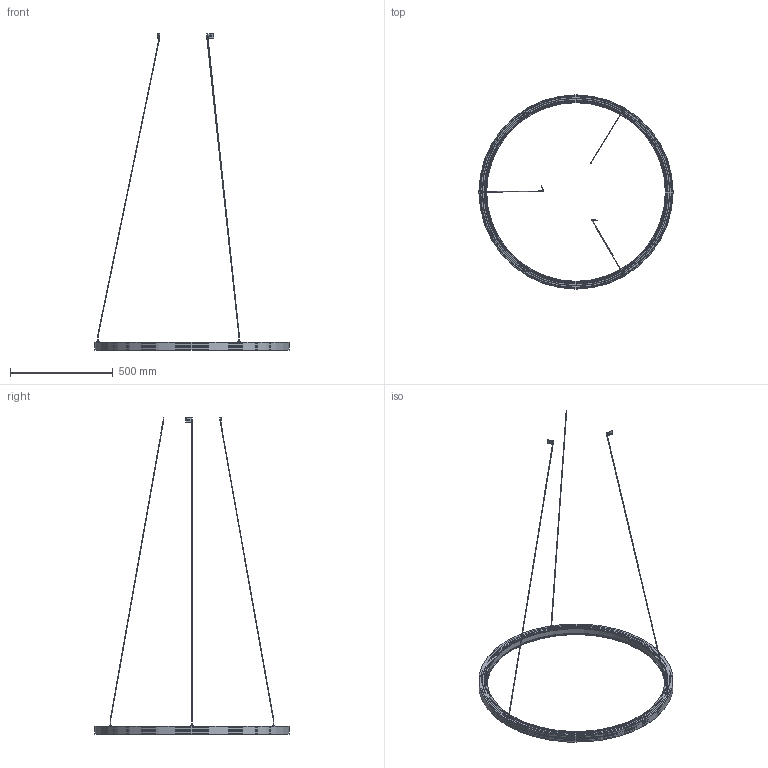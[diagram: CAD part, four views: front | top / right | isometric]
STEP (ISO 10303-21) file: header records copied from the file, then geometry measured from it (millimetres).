
FILE_DESCRIPTION(/* description */ ('Unknown'),/* implementation_level */ '2;1');
FILE_NAME(/* name */ 'TOUR PI 37.2',/* time_stamp */ '2023-01-24T05:35:32-05:00',/* author */ ('Unknown'),/* organization */ ('Unknown'),/* preprocessor_version */ 'ST-DEVELOPER v18.1',/* originating_system */ 'Solid Edge',/* authorisation */ 'Unknown');
FILE_SCHEMA (('AUTOMOTIVE_DESIGN {1 0 10303 214 3 1 1}'));
Length unit declared in the file: millimetre
Products named in the file (1): TOUR PI 37.2
Bounding box: 944 x 944 x 1537 mm (x, y, z)
Volume: 1240975 mm3; surface area: 1104143.6 mm2
Topology: 1 solids, 3 shells, 315 faces, 709 edges, 459 vertices
Faces by surface type: plane 143, cylinder 72, cone 56, torus 44
Full cylindrical faces by diameter (mm): 2.8 x7, 3 x3, 3.5 x3, 4.134 x3, 12.4 x3, 868 x2, 874 x1, 876 x1, 878 x4, 881 x2, 895.2 x2, 909.6 x1, 912.6 x1, 927 x4, 928.1 x1, 930 x4, 937 x3, 944 x1
Entity records: 10208 total; most frequent: CARTESIAN_POINT 1680, DIRECTION 1304, ORIENTED_EDGE 1088, AXIS2_PLACEMENT_3D 581, EDGE_CURVE 544, FACE_BOUND 517, EDGE_LOOP 514, VERTEX_POINT 427
